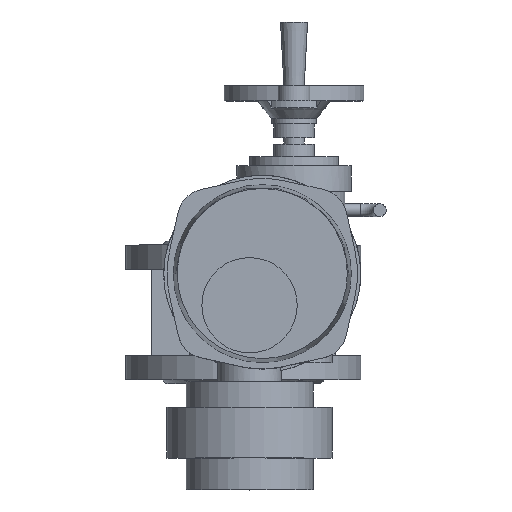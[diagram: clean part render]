
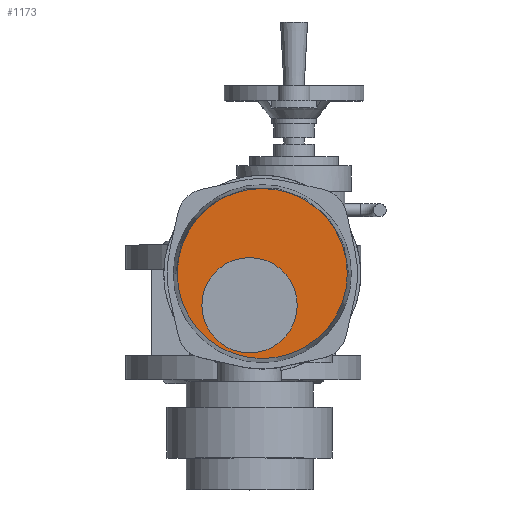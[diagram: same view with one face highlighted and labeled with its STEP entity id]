
A CAD part, top view. The second image highlights one B-rep face of the part: STEP entity #1173.
In plain terms, the highlighted planar face has unit normal (0, 0, 1).
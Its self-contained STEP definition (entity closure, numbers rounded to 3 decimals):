
#1173=ADVANCED_FACE('',(#2648,#2650),#2652,.T.);
#2648=FACE_BOUND('',#2649,.T.);
#2649=EDGE_LOOP('',(#3647));
#2650=FACE_BOUND('',#2651,.T.);
#2651=EDGE_LOOP('',(#3648));
#2652=PLANE('',#2653);
#2653=AXIS2_PLACEMENT_3D('',#2654,#2655,#2656);
#2654=CARTESIAN_POINT('',(15.,30.,372.));
#2655=DIRECTION('',(0.,0.,1.));
#2656=DIRECTION('',(-1.,0.,0.));
#3647=ORIENTED_EDGE('',*,*,#4146,.T.);
#3648=ORIENTED_EDGE('',*,*,#4211,.F.);
#4146=EDGE_CURVE('',#4737,#4737,#4738,.T.);
#4211=EDGE_CURVE('',#4847,#4847,#4848,.T.);
#4737=VERTEX_POINT('',#6840);
#4738=CIRCLE('',#6841,66.908);
#4847=VERTEX_POINT('',#7618);
#4848=CIRCLE('',#7619,37.5);
#6840=CARTESIAN_POINT('',(-51.908,30.,372.));
#6841=AXIS2_PLACEMENT_3D('',#6842,#6843,#6844);
#6842=CARTESIAN_POINT('',(15.,30.,372.));
#6843=DIRECTION('',(0.,0.,1.));
#6844=DIRECTION('',(-1.,0.,0.));
#7618=CARTESIAN_POINT('',(-32.5,5.,372.));
#7619=AXIS2_PLACEMENT_3D('',#7620,#7621,#7622);
#7620=CARTESIAN_POINT('',(5.,5.,372.));
#7621=DIRECTION('',(0.,0.,1.));
#7622=DIRECTION('',(-1.,0.,0.));
